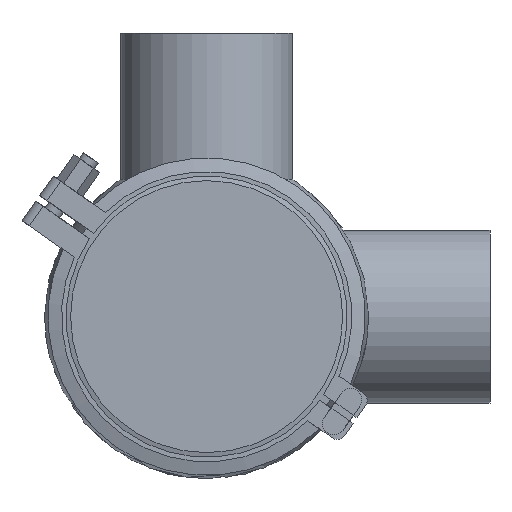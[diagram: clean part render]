
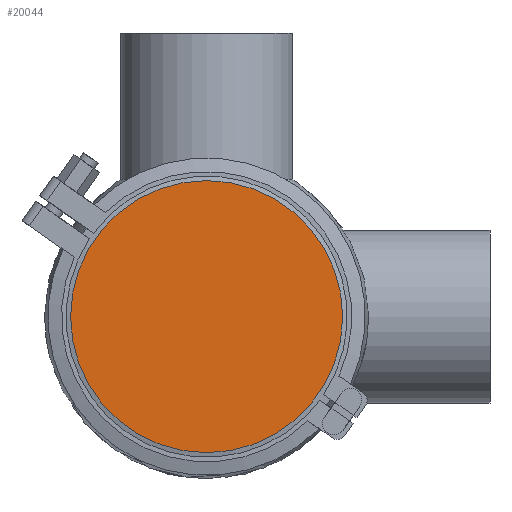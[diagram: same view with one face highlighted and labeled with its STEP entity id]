
A CAD part, front view. The second image highlights one B-rep face of the part: STEP entity #20044.
In plain terms, the highlighted planar face has unit normal (0, -1, 0).
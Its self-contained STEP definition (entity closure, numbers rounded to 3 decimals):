
#787 = CIRCLE ( 'NONE', #3158, 60. ) ;
#1560 = EDGE_CURVE ( 'NONE', #19952, #19952, #787, .T. ) ;
#2989 = DIRECTION ( 'NONE',  ( 0., 0., 1. ) ) ;
#3158 = AXIS2_PLACEMENT_3D ( 'NONE', #4594, #17614, #2989 ) ;
#4594 = CARTESIAN_POINT ( 'NONE',  ( 0., 0., 0. ) ) ;
#6391 = CARTESIAN_POINT ( 'NONE',  ( -60., 0., 0. ) ) ;
#7197 = EDGE_LOOP ( 'NONE', ( #13770 ) ) ;
#11697 = AXIS2_PLACEMENT_3D ( 'NONE', #6391, #12714, #18025 ) ;
#12714 = DIRECTION ( 'NONE',  ( 0., -1., 0. ) ) ;
#13770 = ORIENTED_EDGE ( 'NONE', *, *, #1560, .F. ) ;
#14836 = PLANE ( 'NONE',  #11697 ) ;
#16715 = CARTESIAN_POINT ( 'NONE',  ( 0., 0., 60. ) ) ;
#17603 = FACE_OUTER_BOUND ( 'NONE', #7197, .T. ) ;
#17614 = DIRECTION ( 'NONE',  ( 0., 1., 0. ) ) ;
#18025 = DIRECTION ( 'NONE',  ( 0., 0., -1. ) ) ;
#19952 = VERTEX_POINT ( 'NONE', #16715 ) ;
#20044 = ADVANCED_FACE ( 'NONE', ( #17603 ), #14836, .T. ) ;
